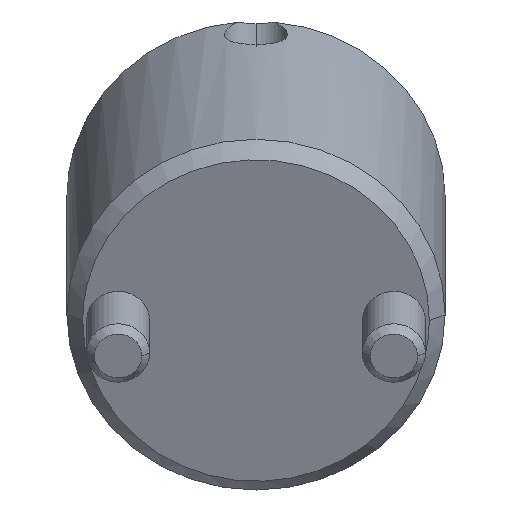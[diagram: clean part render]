
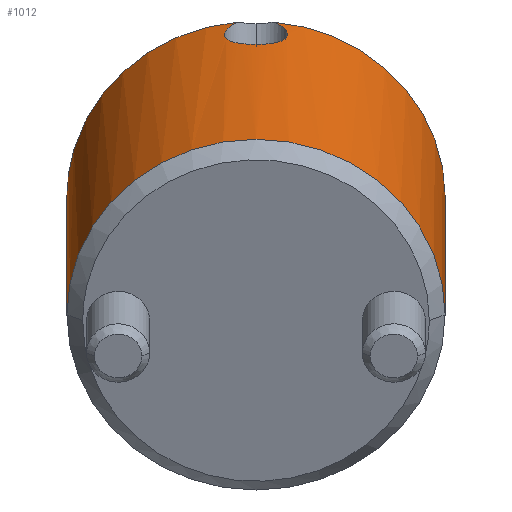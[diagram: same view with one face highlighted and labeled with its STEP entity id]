
A CAD part, front view. The second image highlights one B-rep face of the part: STEP entity #1012.
In plain terms, the highlighted cylindrical face has radius 12 mm (diameter 24 mm), a partial arc.
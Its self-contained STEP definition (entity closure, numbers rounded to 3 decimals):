
#778=CARTESIAN_POINT('Vertex',(0.,12.,1.)) ;
#781=CARTESIAN_POINT('Axis2P3D Location',(0.,0.,1.)) ;
#785=CARTESIAN_POINT('Vertex',(0.,-12.,1.)) ;
#925=CARTESIAN_POINT('Axis2P3D Location',(0.,0.,-1.1)) ;
#931=CARTESIAN_POINT('Control Point',(11.948,-1.115,21.)) ;
#932=CARTESIAN_POINT('Control Point',(11.619,-4.646,21.)) ;
#933=CARTESIAN_POINT('Control Point',(9.987,-8.058,21.)) ;
#934=CARTESIAN_POINT('Control Point',(7.096,-10.693,21.)) ;
#935=CARTESIAN_POINT('Control Point',(3.547,-12.,21.)) ;
#936=CARTESIAN_POINT('Control Point',(0.,-12.,21.)) ;
#937=CARTESIAN_POINT('Vertex',(11.948,-1.115,21.)) ;
#939=CARTESIAN_POINT('Vertex',(0.,-12.,21.)) ;
#942=CARTESIAN_POINT('Line Origine',(0.,-12.,-1.1)) ;
#947=CARTESIAN_POINT('Line Origine',(0.,12.,-1.1)) ;
#951=CARTESIAN_POINT('Vertex',(0.,12.,21.)) ;
#954=CARTESIAN_POINT('Axis2P3D Location',(0.,0.,21.)) ;
#958=CARTESIAN_POINT('Vertex',(11.948,1.115,21.)) ;
#962=CARTESIAN_POINT('Control Point',(11.948,1.115,21.)) ;
#963=CARTESIAN_POINT('Control Point',(11.932,1.288,20.868)) ;
#964=CARTESIAN_POINT('Control Point',(11.915,1.44,20.716)) ;
#965=CARTESIAN_POINT('Control Point',(11.897,1.574,20.545)) ;
#966=CARTESIAN_POINT('Control Point',(11.865,1.804,20.169)) ;
#967=CARTESIAN_POINT('Control Point',(11.842,1.941,19.754)) ;
#968=CARTESIAN_POINT('Control Point',(11.834,1.986,19.534)) ;
#969=CARTESIAN_POINT('Control Point',(11.828,2.025,19.096)) ;
#970=CARTESIAN_POINT('Control Point',(11.839,1.96,18.659)) ;
#971=CARTESIAN_POINT('Control Point',(11.849,1.903,18.45)) ;
#972=CARTESIAN_POINT('Control Point',(11.875,1.738,18.056)) ;
#973=CARTESIAN_POINT('Control Point',(11.909,1.482,17.719)) ;
#974=CARTESIAN_POINT('Control Point',(11.927,1.334,17.571)) ;
#975=CARTESIAN_POINT('Control Point',(11.961,1.004,17.316)) ;
#976=CARTESIAN_POINT('Control Point',(11.986,0.619,17.155)) ;
#977=CARTESIAN_POINT('Control Point',(11.995,0.415,17.1)) ;
#978=CARTESIAN_POINT('Control Point',(12.,0.209,17.073)) ;
#979=CARTESIAN_POINT('Control Point',(12.,0.,17.073)) ;
#980=CARTESIAN_POINT('Vertex',(12.,0.,17.073)) ;
#984=CARTESIAN_POINT('Control Point',(12.,0.,17.073)) ;
#985=CARTESIAN_POINT('Control Point',(12.,-0.345,17.073)) ;
#986=CARTESIAN_POINT('Control Point',(11.988,-0.681,17.147)) ;
#987=CARTESIAN_POINT('Control Point',(11.963,-1.008,17.297)) ;
#988=CARTESIAN_POINT('Control Point',(11.921,-1.397,17.597)) ;
#989=CARTESIAN_POINT('Control Point',(11.883,-1.677,17.994)) ;
#990=CARTESIAN_POINT('Control Point',(11.872,-1.748,18.115)) ;
#991=CARTESIAN_POINT('Control Point',(11.849,-1.902,18.439)) ;
#992=CARTESIAN_POINT('Control Point',(11.834,-1.987,18.793)) ;
#993=CARTESIAN_POINT('Control Point',(11.83,-2.011,19.011)) ;
#994=CARTESIAN_POINT('Control Point',(11.831,-2.008,19.378)) ;
#995=CARTESIAN_POINT('Control Point',(11.843,-1.935,19.741)) ;
#996=CARTESIAN_POINT('Control Point',(11.85,-1.894,19.885)) ;
#997=CARTESIAN_POINT('Control Point',(11.87,-1.768,20.225)) ;
#998=CARTESIAN_POINT('Control Point',(11.897,-1.578,20.539)) ;
#999=CARTESIAN_POINT('Control Point',(11.914,-1.444,20.712)) ;
#1000=CARTESIAN_POINT('Control Point',(11.932,-1.29,20.867)) ;
#1001=CARTESIAN_POINT('Control Point',(11.948,-1.115,21.)) ;
#782=DIRECTION('Axis2P3D Direction',(0.,0.,1.)) ;
#926=DIRECTION('Axis2P3D Direction',(0.,-0.,1.)) ;
#927=DIRECTION('Axis2P3D XDirection',(0.,-1.,0.)) ;
#943=DIRECTION('Vector Direction',(0.,0.,1.)) ;
#948=DIRECTION('Vector Direction',(0.,0.,1.)) ;
#955=DIRECTION('Axis2P3D Direction',(0.,-0.,1.)) ;
#783=AXIS2_PLACEMENT_3D('Circle Axis2P3D',#781,#782,$) ;
#928=AXIS2_PLACEMENT_3D('Cylinder Axis2P3D',#925,#926,#927) ;
#956=AXIS2_PLACEMENT_3D('Circle Axis2P3D',#954,#955,$) ;
#1004=ORIENTED_EDGE('',*,*,#941,.T.) ;
#1005=ORIENTED_EDGE('',*,*,#946,.T.) ;
#1006=ORIENTED_EDGE('',*,*,#787,.F.) ;
#1007=ORIENTED_EDGE('',*,*,#953,.F.) ;
#1008=ORIENTED_EDGE('',*,*,#960,.T.) ;
#1009=ORIENTED_EDGE('',*,*,#982,.T.) ;
#1010=ORIENTED_EDGE('',*,*,#1002,.T.) ;
#944=VECTOR('Line Direction',#943,1.) ;
#949=VECTOR('Line Direction',#948,1.) ;
#1012=ADVANCED_FACE('MANIFOLD_SOLID_BREP #1129',(#1011),#929,.T.) ;
#930=B_SPLINE_CURVE_WITH_KNOTS('',5,(#931,#932,#933,#934,#935,#936),.UNSPECIFIED.,.F.,.U.,(6,6),(-8.867,8.867),.UNSPECIFIED.) ;
#961=B_SPLINE_CURVE_WITH_KNOTS('',5,(#962,#963,#964,#965,#966,#967,#968,#969,#970,#971,#972,#973,#974,#975,#976,#977,#978,#979),.UNSPECIFIED.,.F.,.U.,(6,3,3,3,3,6),(0.,1.457,3.029,4.555,6.053,7.556),.UNSPECIFIED.) ;
#983=B_SPLINE_CURVE_WITH_KNOTS('',5,(#984,#985,#986,#987,#988,#989,#990,#991,#992,#993,#994,#995,#996,#997,#998,#999,#1000,#1001),.UNSPECIFIED.,.F.,.U.,(6,3,3,3,3,6),(0.,2.482,3.488,5.036,6.081,7.554),.UNSPECIFIED.) ;
#784=CIRCLE('generated circle',#783,12.) ;
#957=CIRCLE('generated circle',#956,12.) ;
#929=CYLINDRICAL_SURFACE('generated cylinder',#928,12.) ;
#787=EDGE_CURVE('',#779,#786,#784,.F.) ;
#941=EDGE_CURVE('',#938,#940,#930,.T.) ;
#946=EDGE_CURVE('',#940,#786,#945,.F.) ;
#953=EDGE_CURVE('',#952,#779,#950,.F.) ;
#960=EDGE_CURVE('',#952,#959,#957,.F.) ;
#982=EDGE_CURVE('',#959,#981,#961,.T.) ;
#1002=EDGE_CURVE('',#981,#938,#983,.T.) ;
#1003=EDGE_LOOP('',(#1004,#1005,#1006,#1007,#1008,#1009,#1010)) ;
#1011=FACE_OUTER_BOUND('',#1003,.T.) ;
#945=LINE('Line',#942,#944) ;
#950=LINE('Line',#947,#949) ;
#779=VERTEX_POINT('',#778) ;
#786=VERTEX_POINT('',#785) ;
#938=VERTEX_POINT('',#937) ;
#940=VERTEX_POINT('',#939) ;
#952=VERTEX_POINT('',#951) ;
#959=VERTEX_POINT('',#958) ;
#981=VERTEX_POINT('',#980) ;
